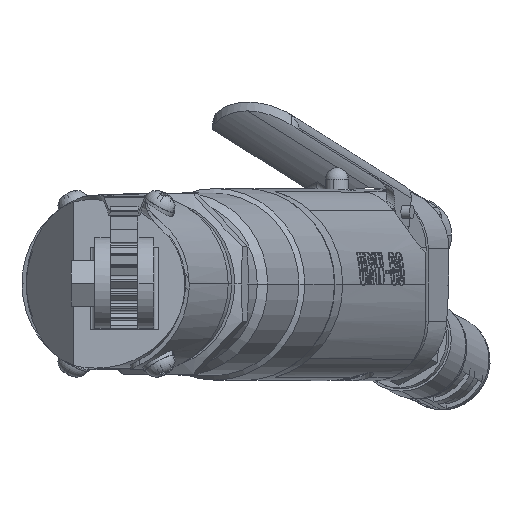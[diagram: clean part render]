
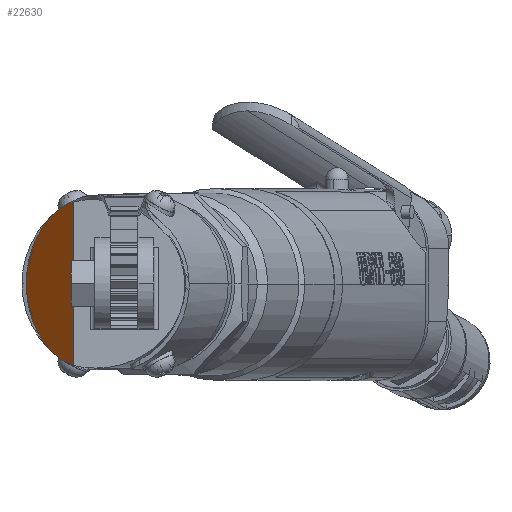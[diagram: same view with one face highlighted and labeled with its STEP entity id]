
A CAD part, top view. The second image highlights one B-rep face of the part: STEP entity #22630.
In plain terms, the highlighted planar face has unit normal (-0.766, 0, 0.643) as drawn and (-0.5, 0, 0.866) by its records, which use the part's own axes.
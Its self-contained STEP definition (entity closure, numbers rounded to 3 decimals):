
#13478 = CARTESIAN_POINT ( 'NONE',  ( -4.644, 17.908, -76. ) ) ;
#13479 = CARTESIAN_POINT ( 'NONE',  ( -13.133, 15.706, -80.901 ) ) ;
#13480 = CARTESIAN_POINT ( 'NONE',  ( -18.5, 8.77, -84. ) ) ;
#13481 = CARTESIAN_POINT ( 'NONE',  ( -18.5, 0., -84. ) ) ;
#13482 =( BOUNDED_CURVE ( )  B_SPLINE_CURVE ( 3, ( #13481, #13480, #13479, #13478 ),
 .UNSPECIFIED., .F., .T. ) 
 B_SPLINE_CURVE_WITH_KNOTS ( ( 4, 4 ),
 ( 3.142, 4.459 ),
 .UNSPECIFIED. ) 
 CURVE ( )  GEOMETRIC_REPRESENTATION_ITEM ( )  RATIONAL_B_SPLINE_CURVE ( ( 1., 0.861, 0.861, 1. ) ) 
 REPRESENTATION_ITEM ( '' )  );
#13483 = CARTESIAN_POINT ( 'NONE',  ( -4.644, 17.908, -76. ) ) ;
#13484 = CARTESIAN_POINT ( 'NONE',  ( -18.5, 0., -84. ) ) ;
#13756 = CARTESIAN_POINT ( 'NONE',  ( -4.644, -17.908, -76. ) ) ;
#13757 = DIRECTION ( 'NONE',  ( 0., 1., 0. ) ) ;
#13758 = VECTOR ( 'NONE', #13757, 1000. ) ;
#13759 = CARTESIAN_POINT ( 'NONE',  ( -4.644, -18.5, -76. ) ) ;
#13760 = LINE ( 'NONE', #13759, #13758 ) ;
#14220 = CARTESIAN_POINT ( 'NONE',  ( -18.5, 0., -84. ) ) ;
#14221 = CARTESIAN_POINT ( 'NONE',  ( -18.5, -8.77, -84. ) ) ;
#14222 = CARTESIAN_POINT ( 'NONE',  ( -13.133, -15.706, -80.901 ) ) ;
#14223 = CARTESIAN_POINT ( 'NONE',  ( -4.644, -17.908, -76. ) ) ;
#14241 =( BOUNDED_CURVE ( )  B_SPLINE_CURVE ( 3, ( #14223, #14222, #14221, #14220 ),
 .UNSPECIFIED., .F., .T. ) 
 B_SPLINE_CURVE_WITH_KNOTS ( ( 4, 4 ),
 ( 1.825, 3.142 ),
 .UNSPECIFIED. ) 
 CURVE ( )  GEOMETRIC_REPRESENTATION_ITEM ( )  RATIONAL_B_SPLINE_CURVE ( ( 1., 0.861, 0.861, 1. ) ) 
 REPRESENTATION_ITEM ( '' )  );
#14273 = PLANE ( 'NONE',  #14342 ) ;
#14274 = FACE_OUTER_BOUND ( 'NONE', #22573, .T. ) ;
#14339 = DIRECTION ( 'NONE',  ( -0.866, 0., -0.5 ) ) ;
#14340 = DIRECTION ( 'NONE',  ( 0.5, 0., -0.866 ) ) ;
#14341 = CARTESIAN_POINT ( 'NONE',  ( -18.5, -18.5, -84. ) ) ;
#14342 = AXIS2_PLACEMENT_3D ( 'NONE', #14341, #14340, #14339 ) ;
#22226 = EDGE_CURVE ( 'NONE', #22227, #22228, #13482, .T. ) ;
#22227 = VERTEX_POINT ( 'NONE', #13484 ) ;
#22228 = VERTEX_POINT ( 'NONE', #13483 ) ;
#22359 = EDGE_CURVE ( 'NONE', #22360, #22228, #13760, .T. ) ;
#22360 = VERTEX_POINT ( 'NONE', #13756 ) ;
#22573 = EDGE_LOOP ( 'NONE', ( #22631, #22632, #22633 ) ) ;
#22583 = EDGE_CURVE ( 'NONE', #22360, #22227, #14241, .T. ) ;
#22630 = ADVANCED_FACE ( 'NONE', ( #14274 ), #14273, .F. ) ;
#22631 = ORIENTED_EDGE ( 'NONE', *, *, #22359, .T. ) ;
#22632 = ORIENTED_EDGE ( 'NONE', *, *, #22226, .F. ) ;
#22633 = ORIENTED_EDGE ( 'NONE', *, *, #22583, .F. ) ;
